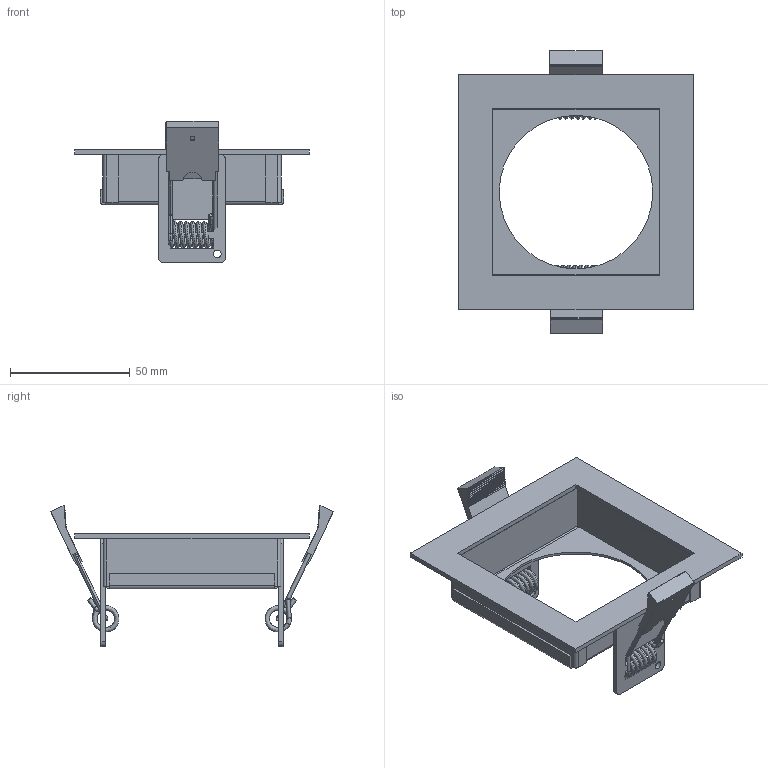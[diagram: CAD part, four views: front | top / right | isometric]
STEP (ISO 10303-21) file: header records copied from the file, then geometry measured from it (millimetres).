
FILE_DESCRIPTION(/* description */ (''),/* implementation_level */ '2;1');
FILE_NAME(/* name */ 'C:\Users\FrancoSartori\Documents\FARO\01_En Proceso\0000_2022\000_PRO\000_TEIDE\03_Publicación\01 TEIDE FRAME 1.stp',/* time_stamp */ '2022-06-03T08:17:07+02:00',/* author */ ('FrancoSartori'),/* organization */ (''),/* preprocessor_version */ 'ST-DEVELOPER v19',/* originating_system */ 'AutoCAD Mechanical',/* authorisation */ '');
FILE_SCHEMA (('AUTOMOTIVE_DESIGN { 1 0 10303 214 3 1 1 }'));
Length unit declared in the file: millimetre
Products named in the file (5): Product; 01 TEIDE FRAME 1_ - Lamp-691692-View 1; 01 TEIDE FRAME 1_ - 001 TEIDE FRAME 1_dwg_NS-2390 Amigo_uÂ_²Õ
_X-691686-View 1; 01 TEIDE FRAME 1_ - 001 TEIDE FRAME 1_dwg_NS-2390 Amigo_uÂ_-69168
4-View 1; 01 TEIDE FRAME 1_ - 001 TEIDE FRAME 1_dwg_PB-1061 _uÂ_Å__M-69
1685-View 1
Assembly tree (5 placements, depth 4):
  Product
    01 TEIDE FRAME 1_ - Lamp-691692-View 1
      01 TEIDE FRAME 1_ - 001 TEIDE FRAME 1_dwg_NS-2390 Amigo_uÂ_²Õ
_X-691686-View 1  x2
        01 TEIDE FRAME 1_ - 001 TEIDE FRAME 1_dwg_NS-2390 Amigo_uÂ_-69168
4-View 1
        01 TEIDE FRAME 1_ - 001 TEIDE FRAME 1_dwg_PB-1061 _uÂ_Å__M-69
1685-View 1
Bounding box: 98 x 118.01 x 58.93 mm (x, y, z)
Volume: 24432.3 mm3; surface area: 43497.4 mm2
Topology: 8 solids, 10 shells, 260 faces, 724 edges, 446 vertices
Faces by surface type: plane 148, cylinder 84, torus 16, bspline 12
Entity records: 11076 total; most frequent: CARTESIAN_POINT 6278, ORIENTED_EDGE 974, DIRECTION 911, EDGE_CURVE 517, LINE 381, VECTOR 381, VERTEX_POINT 325, AXIS2_PLACEMENT_3D 265
